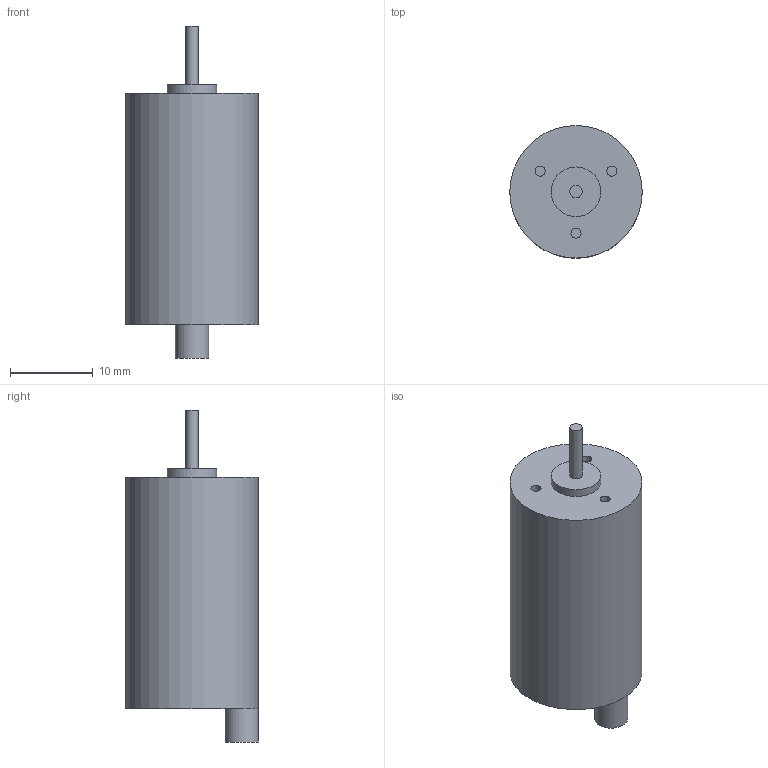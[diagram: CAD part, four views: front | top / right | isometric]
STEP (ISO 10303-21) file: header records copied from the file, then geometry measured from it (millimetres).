
FILE_DESCRIPTION((''),'2;1');
FILE_NAME('G:\Disegni\Progetti\D8500÷D8599\D8514\Motori\C - Motori Step - SBZ\1628TxxxB.stp','2013-04-08T16:00:29',('sari'),(''),'Autodesk Inventor 2012','Autodesk Inventor 2012','');
FILE_SCHEMA(('AUTOMOTIVE_DESIGN { 1 0 10303 214 1 1 1 1 }'));
Length unit declared in the file: millimetre
Products named in the file (1): 1628TxxxB
Bounding box: 16 x 16 x 40.1 mm (x, y, z)
Volume: 5713.8 mm3; surface area: 1935.1 mm2
Topology: 1 solids, 1 shells, 15 faces, 23 edges, 15 vertices
Faces by surface type: plane 8, cylinder 7
Full cylindrical faces by diameter (mm): 1.221 x3, 1.5 x1, 4 x1, 6 x1, 16 x1
Entity records: 325 total; most frequent: DIRECTION 60, CARTESIAN_POINT 43, AXIS2_PLACEMENT_3D 30, ORIENTED_EDGE 28, EDGE_LOOP 27, FACE_OUTER_BOUND 15, ADVANCED_FACE 15, CIRCLE 14
